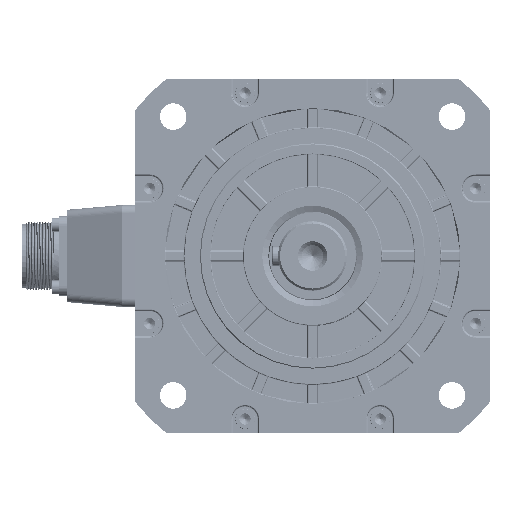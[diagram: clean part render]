
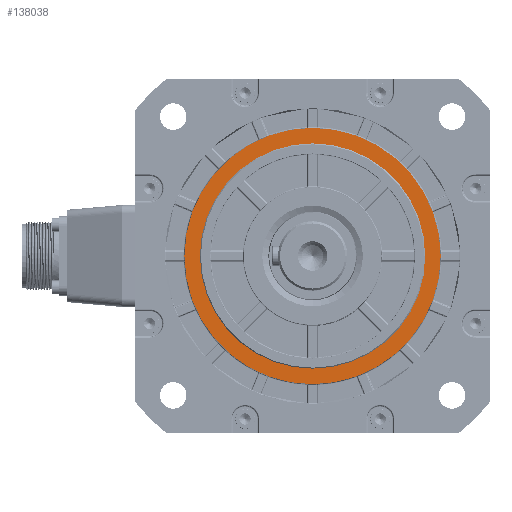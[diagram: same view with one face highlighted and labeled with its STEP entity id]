
A CAD part, left-side view. The second image highlights one B-rep face of the part: STEP entity #138038.
In plain terms, the highlighted planar face has unit normal (-1, 0, 0).
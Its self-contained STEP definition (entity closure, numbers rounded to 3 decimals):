
#117978=CARTESIAN_POINT('',(3.2,0.,0.));
#117979=DIRECTION('',(-1.,0.,0.));
#117980=DIRECTION('',(0.,1.,0.));
#117981=AXIS2_PLACEMENT_3D('',#117978,#117979,#117980);
#117983=CARTESIAN_POINT('',(3.2,0.,0.));
#117984=DIRECTION('',(1.,0.,0.));
#117985=DIRECTION('',(0.,1.,0.));
#117986=AXIS2_PLACEMENT_3D('',#117983,#117984,#117985);
#118028=CARTESIAN_POINT('',(3.2,0.,0.));
#118029=DIRECTION('',(-1.,0.,0.));
#118030=DIRECTION('',(0.,0.,-1.));
#118031=AXIS2_PLACEMENT_3D('',#118028,#118029,#118030);
#118033=CARTESIAN_POINT('',(3.2,0.,0.));
#118034=DIRECTION('',(-1.,0.,0.));
#118035=DIRECTION('',(0.,0.,1.));
#118036=AXIS2_PLACEMENT_3D('',#118033,#118034,#118035);
#126660=CARTESIAN_POINT('',(3.2,57.15,0.));
#126661=CARTESIAN_POINT('',(3.2,-57.15,0.));
#126662=VERTEX_POINT('',#126660);
#126663=VERTEX_POINT('',#126661);
#126880=CARTESIAN_POINT('',(3.2,0.,-65.));
#126881=CARTESIAN_POINT('',(3.2,0.,65.));
#126882=VERTEX_POINT('',#126880);
#126883=VERTEX_POINT('',#126881);
#138021=CARTESIAN_POINT('',(3.2,0.,0.));
#138022=DIRECTION('',(1.,0.,0.));
#138023=DIRECTION('',(0.,-1.,0.));
#138024=AXIS2_PLACEMENT_3D('',#138021,#138022,#138023);
#138025=PLANE('',#138024);
#138027=ORIENTED_EDGE('',*,*,#138026,.F.);
#138029=ORIENTED_EDGE('',*,*,#138028,.F.);
#138030=EDGE_LOOP('',(#138027,#138029));
#138031=FACE_OUTER_BOUND('',#138030,.F.);
#138033=ORIENTED_EDGE('',*,*,#138032,.T.);
#138035=ORIENTED_EDGE('',*,*,#138034,.F.);
#138036=EDGE_LOOP('',(#138033,#138035));
#138037=FACE_BOUND('',#138036,.F.);
#138038=ADVANCED_FACE('',(#138031,#138037),#138025,.F.);
#117982=CIRCLE('',#117981,57.15);
#117987=CIRCLE('',#117986,57.15);
#118032=CIRCLE('',#118031,65.);
#118037=CIRCLE('',#118036,65.);
#138026=EDGE_CURVE('',#126882,#126883,#118032,.T.);
#138028=EDGE_CURVE('',#126883,#126882,#118037,.T.);
#138032=EDGE_CURVE('',#126662,#126663,#117982,.T.);
#138034=EDGE_CURVE('',#126662,#126663,#117987,.T.);
